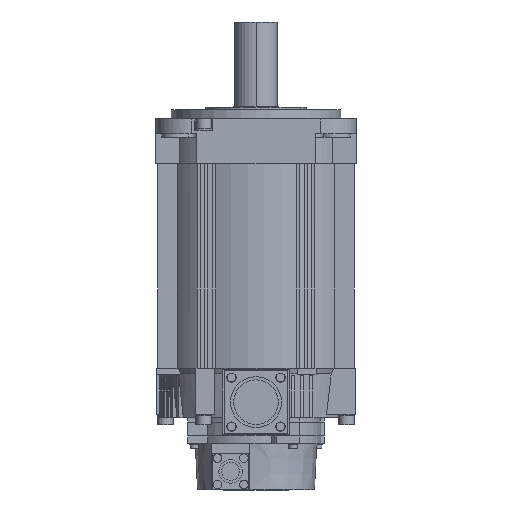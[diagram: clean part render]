
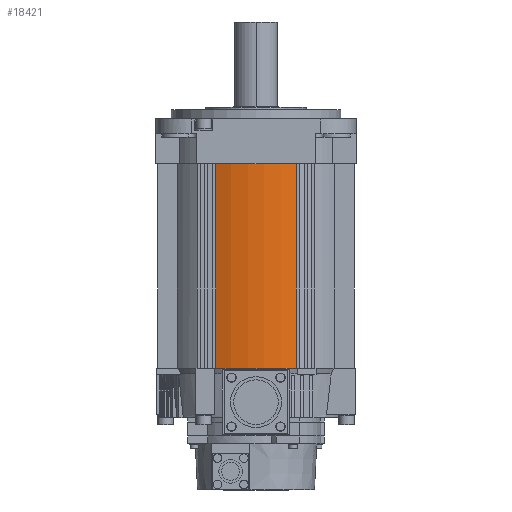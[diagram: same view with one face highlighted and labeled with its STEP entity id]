
A CAD part, front view. The second image highlights one B-rep face of the part: STEP entity #18421.
In plain terms, the highlighted cylindrical face has radius 64 mm (diameter 128 mm), a partial arc.
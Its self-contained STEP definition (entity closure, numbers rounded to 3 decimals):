
#3183 = DIRECTION ( 'NONE',  ( 0., 0., -1. ) ) ;
#3184 = VECTOR ( 'NONE', #3183, 1000. ) ;
#3185 = CARTESIAN_POINT ( 'NONE',  ( 26.3, -58.346, -343.019 ) ) ;
#3186 = LINE ( 'NONE', #3185, #3184 ) ;
#3220 = CARTESIAN_POINT ( 'NONE',  ( -26.3, -58.346, -29. ) ) ;
#3289 = DIRECTION ( 'NONE',  ( 1., 0., 0. ) ) ;
#3290 = DIRECTION ( 'NONE',  ( 0., 0., 1. ) ) ;
#3291 = CARTESIAN_POINT ( 'NONE',  ( 0., 0., -343.019 ) ) ;
#3292 = AXIS2_PLACEMENT_3D ( 'NONE', #3291, #3290, #3289 ) ;
#3293 = CYLINDRICAL_SURFACE ( 'NONE', #3292, 64. ) ;
#3301 = FACE_OUTER_BOUND ( 'NONE', #18422, .T. ) ;
#3311 = DIRECTION ( 'NONE',  ( 0., 0., 1. ) ) ;
#3312 = VECTOR ( 'NONE', #3311, 1000. ) ;
#3313 = CARTESIAN_POINT ( 'NONE',  ( -26.3, -58.346, -343.019 ) ) ;
#3318 = LINE ( 'NONE', #3313, #3312 ) ;
#4130 = DIRECTION ( 'NONE',  ( 1., 0., 0. ) ) ;
#4131 = DIRECTION ( 'NONE',  ( 0., 0., 1. ) ) ;
#4132 = CARTESIAN_POINT ( 'NONE',  ( 0., 0., -29. ) ) ;
#4133 = AXIS2_PLACEMENT_3D ( 'NONE', #4132, #4131, #4130 ) ;
#4134 = CIRCLE ( 'NONE', #4133, 64. ) ;
#4135 = CARTESIAN_POINT ( 'NONE',  ( 26.3, -58.346, -29. ) ) ;
#8741 = VERTEX_POINT ( 'NONE', #13799 ) ;
#8743 = EDGE_CURVE ( 'NONE', #8741, #8745, #13797, .T. ) ;
#8745 = VERTEX_POINT ( 'NONE', #13791 ) ;
#13791 = CARTESIAN_POINT ( 'NONE',  ( -26.3, -58.346, -162. ) ) ;
#13793 = DIRECTION ( 'NONE',  ( 1., 0., 0. ) ) ;
#13794 = DIRECTION ( 'NONE',  ( 0., 0., -1. ) ) ;
#13795 = CARTESIAN_POINT ( 'NONE',  ( 0., 0., -162. ) ) ;
#13796 = AXIS2_PLACEMENT_3D ( 'NONE', #13795, #13794, #13793 ) ;
#13797 = CIRCLE ( 'NONE', #13796, 64. ) ;
#13799 = CARTESIAN_POINT ( 'NONE',  ( 26.3, -58.346, -162. ) ) ;
#18329 = EDGE_CURVE ( 'NONE', #18892, #8741, #3186, .T. ) ;
#18370 = ORIENTED_EDGE ( 'NONE', *, *, #18329, .F. ) ;
#18375 = VERTEX_POINT ( 'NONE', #3220 ) ;
#18376 = ORIENTED_EDGE ( 'NONE', *, *, #8743, .F. ) ;
#18384 = ORIENTED_EDGE ( 'NONE', *, *, #18407, .F. ) ;
#18407 = EDGE_CURVE ( 'NONE', #8745, #18375, #3318, .T. ) ;
#18421 = ADVANCED_FACE ( 'NONE', ( #3301 ), #3293, .T. ) ;
#18422 = EDGE_LOOP ( 'NONE', ( #18384, #18376, #18370, #18893 ) ) ;
#18892 = VERTEX_POINT ( 'NONE', #4135 ) ;
#18893 = ORIENTED_EDGE ( 'NONE', *, *, #18894, .F. ) ;
#18894 = EDGE_CURVE ( 'NONE', #18375, #18892, #4134, .T. ) ;
